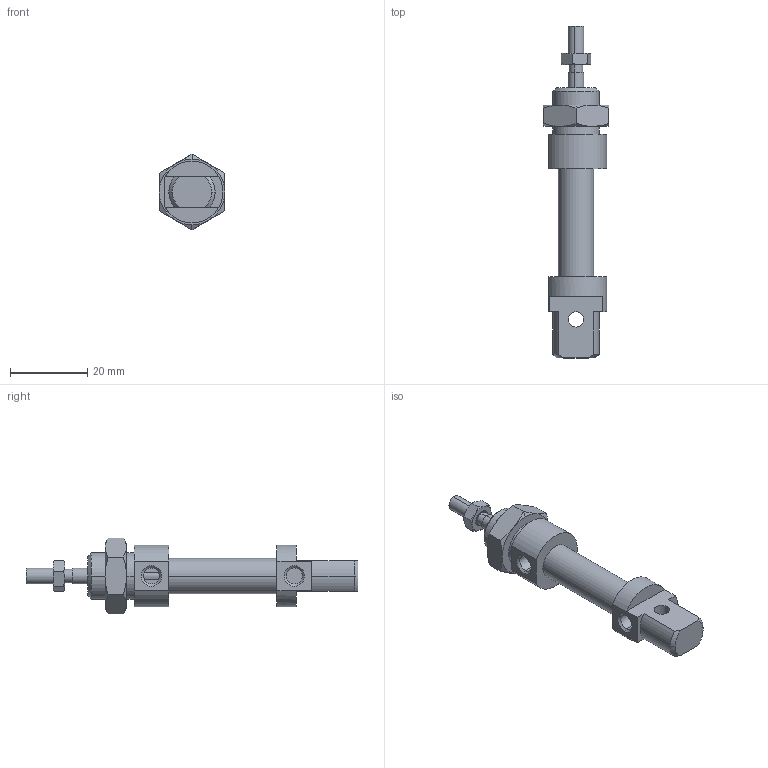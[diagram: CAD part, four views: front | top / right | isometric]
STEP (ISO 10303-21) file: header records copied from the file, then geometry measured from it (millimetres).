
FILE_DESCRIPTION((''),'2;1');
FILE_NAME('I:\DOC-EDP\Lib-3d\1200\CILINDRI\1280\1280_08_0000.stp','2003-04-07T14:03:52',('maffial1'),(''),'Autodesk Inventor (R) 6.0','Autodesk Inventor (R) 6.0','');
FILE_SCHEMA(('AUTOMOTIVE_DESIGN { 1 0 10303 214 1 1 1 1 }'));
Length unit declared in the file: millimetre
Products named in the file (5): 1280_08_0000; S1280_08_0; 1200_08_05; 1200_08_06; C1280_08_0
Assembly tree (4 placements, depth 2):
  1280_08_0000
    S1280_08_0
    1200_08_05
    1200_08_06
    C1280_08_0
Bounding box: 17 x 86 x 19.63 mm (x, y, z)
Volume: 8360.3 mm3; surface area: 5066.7 mm2
Topology: 4 solids, 4 shells, 117 faces, 261 edges, 158 vertices
Faces by surface type: cone 40, plane 34, cylinder 22, bspline 21
Entity records: 3582 total; most frequent: CARTESIAN_POINT 992, DIRECTION 531, ORIENTED_EDGE 522, EDGE_CURVE 261, AXIS2_PLACEMENT_3D 221, VERTEX_POINT 158, EDGE_LOOP 131, FACE_OUTER_BOUND 117
